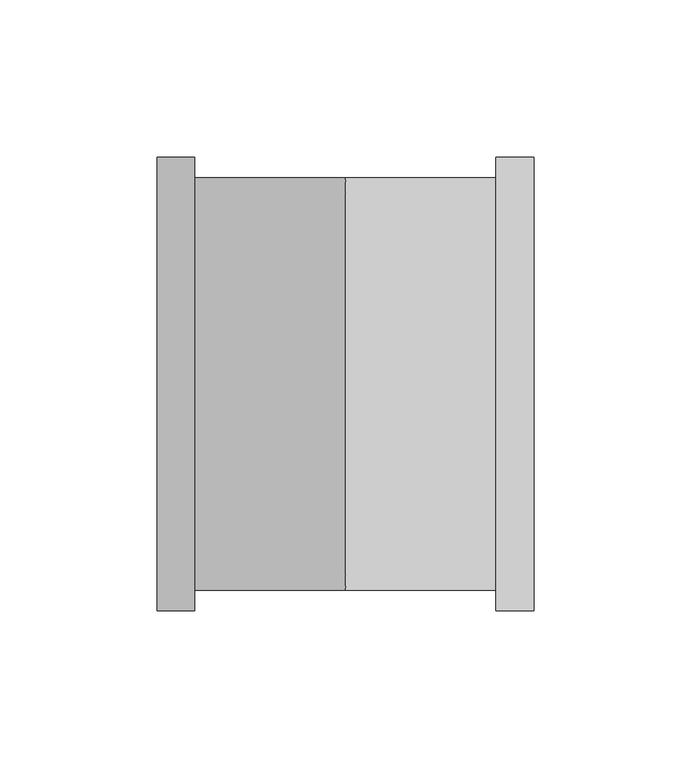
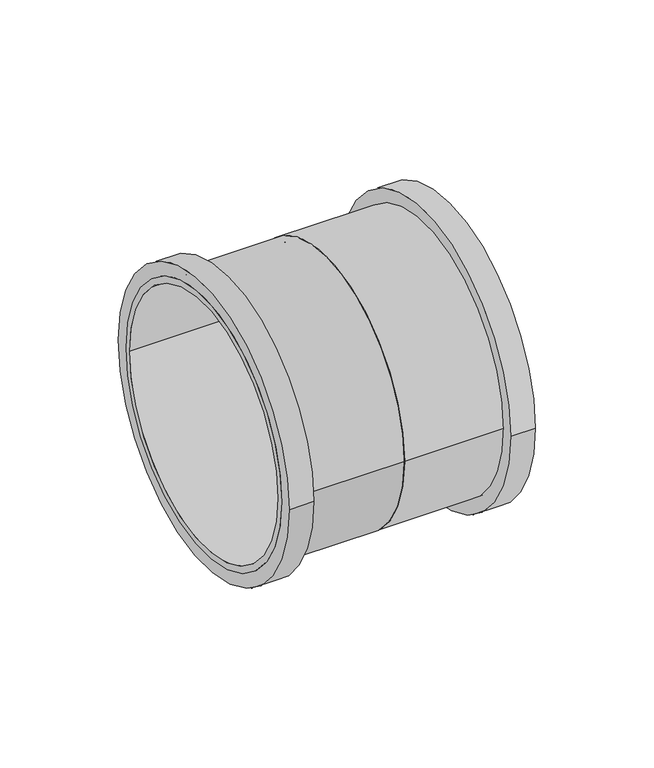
"""IFC4 building model written with IfcOpenShell, lengths in millimetres: pipe fitting geometry, Superdrain HTU-coupler : Superdrain HTU-coupler."""

from ifc_helpers import new_model, si_unit, point, frame, origin, origin_2d, place, context, project, spatial, circle_curve, trimmed, segment, composite_curve, outline, extrude, source, transform, mapped, element, save


def pipe_fitting_05fc3727(model_context):
    return source(origin(), model_context, "Body", "SweptSolid", [
        extrude(outline(composite_curve([segment(trimmed(circle_curve(origin_2d(), 65.625), [point((65.625, 0.0))], [point((-65.625, 0.0))], False, "CARTESIAN"), True, "CONTINUOUS"), segment(trimmed(circle_curve(origin_2d(), 65.625), [point((-65.625, 0.0))], [point((65.625, 0.0))], False, "CARTESIAN"), True, "CONTINUOUS")], self_intersect=False), holes=[composite_curve([segment(trimmed(circle_curve(origin_2d(), 62.5), [point((62.5, 0.0))], [point((-62.5, 0.0))], True, "CARTESIAN"), True, "CONTINUOUS"), segment(trimmed(circle_curve(origin_2d(), 62.5), [point((-62.5, 0.0))], [point((62.5, 0.0))], True, "CARTESIAN"), True, "CONTINUOUS")], self_intersect=False)]), frame((0.0, 0.0, 0.0), z_axis=(1.0, 0.0, 0.0), x_axis=(0.0, 1.0, 0.0)), (0.0, 0.0, 1.0), 60.0),
        extrude(outline(composite_curve([segment(trimmed(circle_curve(origin_2d(), 72.1875), [point((72.1875, 0.0))], [point((-72.1875, 0.0))], False, "CARTESIAN"), True, "CONTINUOUS"), segment(trimmed(circle_curve(origin_2d(), 72.1875), [point((-72.1875, 0.0))], [point((72.1875, 0.0))], False, "CARTESIAN"), True, "CONTINUOUS")], self_intersect=False), holes=[composite_curve([segment(trimmed(circle_curve(origin_2d(), 62.5), [point((62.5, 0.0))], [point((-62.5, 0.0))], True, "CARTESIAN"), True, "CONTINUOUS"), segment(trimmed(circle_curve(origin_2d(), 62.5), [point((-62.5, 0.0))], [point((62.5, 0.0))], True, "CARTESIAN"), True, "CONTINUOUS")], self_intersect=False)]), frame((48.0, 0.0, 0.0), z_axis=(1.0, 0.0, 0.0), x_axis=(0.0, 1.0, 0.0)), (0.0, 0.0, 1.0), 12.0),
        extrude(outline(composite_curve([segment(trimmed(circle_curve(origin_2d(), 65.625), [point((-65.625, 0.0))], [point((65.625, 0.0))], False, "CARTESIAN"), True, "CONTINUOUS"), segment(trimmed(circle_curve(origin_2d(), 65.625), [point((65.625, 0.0))], [point((-65.625, 0.0))], False, "CARTESIAN"), True, "CONTINUOUS")], self_intersect=False), holes=[composite_curve([segment(trimmed(circle_curve(origin_2d(), 62.5), [point((-62.5, 0.0))], [point((62.5, 0.0))], True, "CARTESIAN"), True, "CONTINUOUS"), segment(trimmed(circle_curve(origin_2d(), 62.5), [point((62.5, 0.0))], [point((-62.5, 0.0))], True, "CARTESIAN"), True, "CONTINUOUS")], self_intersect=False)]), frame((-60.0, 0.0, 0.0), z_axis=(1.0, 0.0, 0.0), x_axis=(0.0, 1.0, 0.0)), (0.0, 0.0, 1.0), 60.0),
        extrude(outline(composite_curve([segment(trimmed(circle_curve(origin_2d(), 72.1875), [point((-72.1875, 0.0))], [point((72.1875, 0.0))], False, "CARTESIAN"), True, "CONTINUOUS"), segment(trimmed(circle_curve(origin_2d(), 72.1875), [point((72.1875, 0.0))], [point((-72.1875, 0.0))], False, "CARTESIAN"), True, "CONTINUOUS")], self_intersect=False), holes=[composite_curve([segment(trimmed(circle_curve(origin_2d(), 62.5), [point((-62.5, 0.0))], [point((62.5, 0.0))], True, "CARTESIAN"), True, "CONTINUOUS"), segment(trimmed(circle_curve(origin_2d(), 62.5), [point((62.5, 0.0))], [point((-62.5, 0.0))], True, "CARTESIAN"), True, "CONTINUOUS")], self_intersect=False)]), frame((-60.0, 0.0, 0.0), z_axis=(1.0, 0.0, 0.0), x_axis=(0.0, 1.0, 0.0)), (0.0, 0.0, 1.0), 12.0),
    ])


if __name__ == "__main__":
    model = new_model("IFC4")
    model_context = context("Model", 3, world=origin())
    ifc_project = project(units=[si_unit("LENGTHUNIT", "METRE", prefix="MILLI")], contexts=[model_context])
    site = spatial("IfcSite", under=ifc_project)
    building = spatial("IfcBuilding", under=site)
    placement = place(None, origin())
    pipe_fitting_shape = pipe_fitting_05fc3727(model_context)
    element("IfcPipeFitting", 1, ObjectType="Superdrain HTU-coupler : Superdrain HTU-coupler", at=placement, inside=building, context=model_context, shape_type="MappedRepresentation", body=[
        mapped(pipe_fitting_shape, transform((0.0, 0.0, 0.0), x_axis=(1.0, 0.0, 0.0), y_axis=(0.0, 1.0, 0.0), z_axis=(0.0, 0.0, 1.0))),
    ])
    save(model, "model.ifc")
